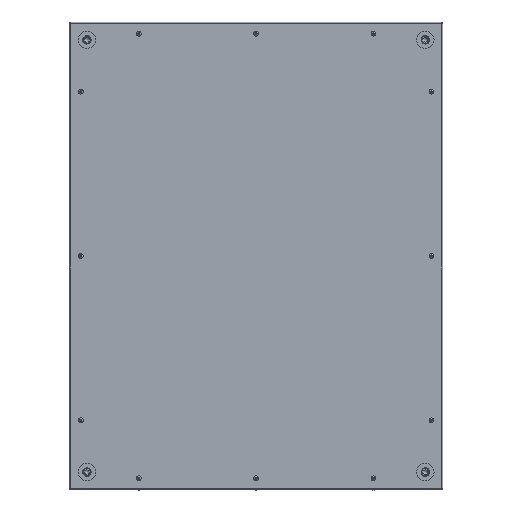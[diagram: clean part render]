
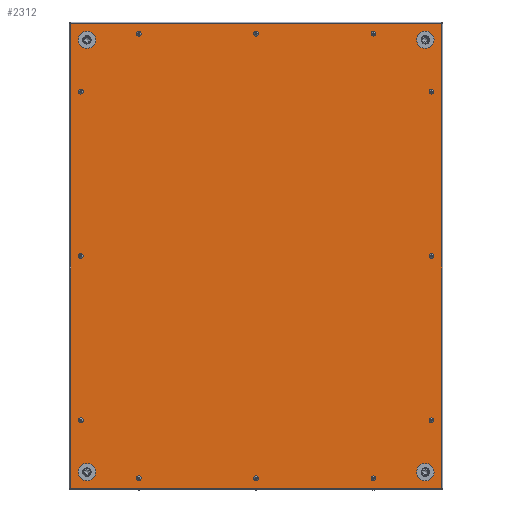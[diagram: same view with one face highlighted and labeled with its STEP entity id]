
A CAD part, top view. The second image highlights one B-rep face of the part: STEP entity #2312.
In plain terms, the highlighted planar face has unit normal (0, 0, 1).
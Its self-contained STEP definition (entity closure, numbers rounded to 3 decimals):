
#2312=ADVANCED_FACE('',(#3389,#3391,#3393,#3395,#3397,#3399,#3401,#3403,#3405,#3407,
#3409,#3411,#3413,#3415,#3417,#3419,#3421),#3423,.T.);
#3389=FACE_BOUND('',#3390,.T.);
#3390=EDGE_LOOP('',(#8882,#8883,#8884,#8885));
#3391=FACE_BOUND('',#3392,.T.);
#3392=EDGE_LOOP('',(#8886));
#3393=FACE_BOUND('',#3394,.T.);
#3394=EDGE_LOOP('',(#8887));
#3395=FACE_BOUND('',#3396,.T.);
#3396=EDGE_LOOP('',(#8888));
#3397=FACE_BOUND('',#3398,.T.);
#3398=EDGE_LOOP('',(#8889));
#3399=FACE_BOUND('',#3400,.T.);
#3400=EDGE_LOOP('',(#8890));
#3401=FACE_BOUND('',#3402,.T.);
#3402=EDGE_LOOP('',(#8891));
#3403=FACE_BOUND('',#3404,.T.);
#3404=EDGE_LOOP('',(#8892));
#3405=FACE_BOUND('',#3406,.T.);
#3406=EDGE_LOOP('',(#8893));
#3407=FACE_BOUND('',#3408,.T.);
#3408=EDGE_LOOP('',(#8894));
#3409=FACE_BOUND('',#3410,.T.);
#3410=EDGE_LOOP('',(#8895));
#3411=FACE_BOUND('',#3412,.T.);
#3412=EDGE_LOOP('',(#8896));
#3413=FACE_BOUND('',#3414,.T.);
#3414=EDGE_LOOP('',(#8897));
#3415=FACE_BOUND('',#3416,.T.);
#3416=EDGE_LOOP('',(#8898));
#3417=FACE_BOUND('',#3418,.T.);
#3418=EDGE_LOOP('',(#8899));
#3419=FACE_BOUND('',#3420,.T.);
#3420=EDGE_LOOP('',(#8900));
#3421=FACE_BOUND('',#3422,.T.);
#3422=EDGE_LOOP('',(#8901));
#3423=PLANE('',#3424);
#3424=AXIS2_PLACEMENT_3D('',#3425,#3426,#3427);
#3425=CARTESIAN_POINT('',(0.,0.,1.5));
#3426=DIRECTION('',(0.,0.,1.));
#3427=DIRECTION('',(0.,1.,0.));
#8882=ORIENTED_EDGE('',*,*,#10599,.T.);
#8883=ORIENTED_EDGE('',*,*,#10600,.T.);
#8884=ORIENTED_EDGE('',*,*,#10601,.T.);
#8885=ORIENTED_EDGE('',*,*,#10602,.T.);
#8886=ORIENTED_EDGE('',*,*,#10578,.T.);
#8887=ORIENTED_EDGE('',*,*,#10577,.T.);
#8888=ORIENTED_EDGE('',*,*,#10576,.T.);
#8889=ORIENTED_EDGE('',*,*,#10575,.T.);
#8890=ORIENTED_EDGE('',*,*,#10574,.T.);
#8891=ORIENTED_EDGE('',*,*,#10573,.T.);
#8892=ORIENTED_EDGE('',*,*,#10572,.T.);
#8893=ORIENTED_EDGE('',*,*,#10571,.T.);
#8894=ORIENTED_EDGE('',*,*,#10566,.T.);
#8895=ORIENTED_EDGE('',*,*,#10567,.T.);
#8896=ORIENTED_EDGE('',*,*,#10568,.T.);
#8897=ORIENTED_EDGE('',*,*,#10569,.T.);
#8898=ORIENTED_EDGE('',*,*,#10565,.T.);
#8899=ORIENTED_EDGE('',*,*,#10564,.T.);
#8900=ORIENTED_EDGE('',*,*,#10563,.T.);
#8901=ORIENTED_EDGE('',*,*,#10562,.T.);
#10562=EDGE_CURVE('',#11608,#11608,#11609,.F.);
#10563=EDGE_CURVE('',#11610,#11610,#11611,.F.);
#10564=EDGE_CURVE('',#11612,#11612,#11613,.F.);
#10565=EDGE_CURVE('',#11614,#11614,#11615,.F.);
#10566=EDGE_CURVE('',#11616,#11616,#11617,.F.);
#10567=EDGE_CURVE('',#11618,#11618,#11619,.F.);
#10568=EDGE_CURVE('',#11620,#11620,#11621,.F.);
#10569=EDGE_CURVE('',#11622,#11622,#11623,.F.);
#10571=EDGE_CURVE('',#11626,#11626,#11627,.F.);
#10572=EDGE_CURVE('',#11628,#11628,#11629,.F.);
#10573=EDGE_CURVE('',#11630,#11630,#11631,.F.);
#10574=EDGE_CURVE('',#11632,#11632,#11633,.F.);
#10575=EDGE_CURVE('',#11634,#11634,#11635,.F.);
#10576=EDGE_CURVE('',#11636,#11636,#11637,.F.);
#10577=EDGE_CURVE('',#11638,#11638,#11639,.F.);
#10578=EDGE_CURVE('',#11640,#11640,#11641,.F.);
#10599=EDGE_CURVE('',#11678,#11679,#11680,.T.);
#10600=EDGE_CURVE('',#11679,#11681,#11682,.T.);
#10601=EDGE_CURVE('',#11681,#11683,#11684,.T.);
#10602=EDGE_CURVE('',#11683,#11678,#11685,.T.);
#11608=VERTEX_POINT('',#13536);
#11609=CIRCLE('',#13537,3.75);
#11610=VERTEX_POINT('',#13541);
#11611=CIRCLE('',#13542,3.75);
#11612=VERTEX_POINT('',#13546);
#11613=CIRCLE('',#13547,3.75);
#11614=VERTEX_POINT('',#13551);
#11615=CIRCLE('',#13552,3.75);
#11616=VERTEX_POINT('',#13556);
#11617=CIRCLE('',#13557,7.);
#11618=VERTEX_POINT('',#13561);
#11619=CIRCLE('',#13562,7.);
#11620=VERTEX_POINT('',#13566);
#11621=CIRCLE('',#13567,7.);
#11622=VERTEX_POINT('',#13571);
#11623=CIRCLE('',#13572,7.);
#11626=VERTEX_POINT('',#13581);
#11627=CIRCLE('',#13582,3.75);
#11628=VERTEX_POINT('',#13586);
#11629=CIRCLE('',#13587,3.75);
#11630=VERTEX_POINT('',#13591);
#11631=CIRCLE('',#13592,3.75);
#11632=VERTEX_POINT('',#13596);
#11633=CIRCLE('',#13597,3.75);
#11634=VERTEX_POINT('',#13601);
#11635=CIRCLE('',#13602,3.75);
#11636=VERTEX_POINT('',#13606);
#11637=CIRCLE('',#13607,3.75);
#11638=VERTEX_POINT('',#13611);
#11639=CIRCLE('',#13612,3.75);
#11640=VERTEX_POINT('',#13616);
#11641=CIRCLE('',#13617,3.75);
#11678=VERTEX_POINT('',#13833);
#11679=VERTEX_POINT('',#13834);
#11680=LINE('',#13835,#13836);
#11681=VERTEX_POINT('',#13838);
#11682=LINE('',#13839,#13840);
#11683=VERTEX_POINT('',#13842);
#11684=LINE('',#13843,#13844);
#11685=LINE('',#13846,#13847);
#13536=CARTESIAN_POINT('',(0.,-469.75,1.5));
#13537=AXIS2_PLACEMENT_3D('',#13538,#13539,#13540);
#13538=CARTESIAN_POINT('',(0.,-473.5,1.5));
#13539=DIRECTION('',(0.,0.,1.));
#13540=DIRECTION('',(0.,1.,0.));
#13541=CARTESIAN_POINT('',(0.,477.25,1.5));
#13542=AXIS2_PLACEMENT_3D('',#13543,#13544,#13545);
#13543=CARTESIAN_POINT('',(0.,473.5,1.5));
#13544=DIRECTION('',(0.,0.,1.));
#13545=DIRECTION('',(0.,1.,0.));
#13546=CARTESIAN_POINT('',(373.5,3.75,1.5));
#13547=AXIS2_PLACEMENT_3D('',#13548,#13549,#13550);
#13548=CARTESIAN_POINT('',(373.5,0.,1.5));
#13549=DIRECTION('',(0.,0.,1.));
#13550=DIRECTION('',(0.,1.,0.));
#13551=CARTESIAN_POINT('',(-373.5,3.75,1.5));
#13552=AXIS2_PLACEMENT_3D('',#13553,#13554,#13555);
#13553=CARTESIAN_POINT('',(-373.5,0.,1.5));
#13554=DIRECTION('',(0.,0.,1.));
#13555=DIRECTION('',(0.,1.,0.));
#13556=CARTESIAN_POINT('',(360.5,-453.5,1.5));
#13557=AXIS2_PLACEMENT_3D('',#13558,#13559,#13560);
#13558=CARTESIAN_POINT('',(360.5,-460.5,1.5));
#13559=DIRECTION('',(0.,0.,1.));
#13560=DIRECTION('',(0.,1.,0.));
#13561=CARTESIAN_POINT('',(-360.5,467.5,1.5));
#13562=AXIS2_PLACEMENT_3D('',#13563,#13564,#13565);
#13563=CARTESIAN_POINT('',(-360.5,460.5,1.5));
#13564=DIRECTION('',(0.,0.,1.));
#13565=DIRECTION('',(0.,1.,0.));
#13566=CARTESIAN_POINT('',(-360.5,-453.5,1.5));
#13567=AXIS2_PLACEMENT_3D('',#13568,#13569,#13570);
#13568=CARTESIAN_POINT('',(-360.5,-460.5,1.5));
#13569=DIRECTION('',(0.,0.,1.));
#13570=DIRECTION('',(0.,1.,0.));
#13571=CARTESIAN_POINT('',(360.5,467.5,1.5));
#13572=AXIS2_PLACEMENT_3D('',#13573,#13574,#13575);
#13573=CARTESIAN_POINT('',(360.5,460.5,1.5));
#13574=DIRECTION('',(0.,0.,1.));
#13575=DIRECTION('',(0.,1.,0.));
#13581=CARTESIAN_POINT('',(-373.5,-346.25,1.5));
#13582=AXIS2_PLACEMENT_3D('',#13583,#13584,#13585);
#13583=CARTESIAN_POINT('',(-373.5,-350.,1.5));
#13584=DIRECTION('',(0.,0.,1.));
#13585=DIRECTION('',(0.,1.,0.));
#13586=CARTESIAN_POINT('',(373.5,353.75,1.5));
#13587=AXIS2_PLACEMENT_3D('',#13588,#13589,#13590);
#13588=CARTESIAN_POINT('',(373.5,350.,1.5));
#13589=DIRECTION('',(0.,0.,1.));
#13590=DIRECTION('',(0.,1.,0.));
#13591=CARTESIAN_POINT('',(373.5,-346.25,1.5));
#13592=AXIS2_PLACEMENT_3D('',#13593,#13594,#13595);
#13593=CARTESIAN_POINT('',(373.5,-350.,1.5));
#13594=DIRECTION('',(0.,0.,1.));
#13595=DIRECTION('',(0.,1.,0.));
#13596=CARTESIAN_POINT('',(-373.5,353.75,1.5));
#13597=AXIS2_PLACEMENT_3D('',#13598,#13599,#13600);
#13598=CARTESIAN_POINT('',(-373.5,350.,1.5));
#13599=DIRECTION('',(0.,0.,1.));
#13600=DIRECTION('',(0.,1.,0.));
#13601=CARTESIAN_POINT('',(-250.,-469.75,1.5));
#13602=AXIS2_PLACEMENT_3D('',#13603,#13604,#13605);
#13603=CARTESIAN_POINT('',(-250.,-473.5,1.5));
#13604=DIRECTION('',(0.,0.,1.));
#13605=DIRECTION('',(0.,1.,0.));
#13606=CARTESIAN_POINT('',(250.,477.25,1.5));
#13607=AXIS2_PLACEMENT_3D('',#13608,#13609,#13610);
#13608=CARTESIAN_POINT('',(250.,473.5,1.5));
#13609=DIRECTION('',(0.,0.,1.));
#13610=DIRECTION('',(0.,1.,0.));
#13611=CARTESIAN_POINT('',(-250.,477.25,1.5));
#13612=AXIS2_PLACEMENT_3D('',#13613,#13614,#13615);
#13613=CARTESIAN_POINT('',(-250.,473.5,1.5));
#13614=DIRECTION('',(0.,0.,1.));
#13615=DIRECTION('',(0.,1.,0.));
#13616=CARTESIAN_POINT('',(250.,-469.75,1.5));
#13617=AXIS2_PLACEMENT_3D('',#13618,#13619,#13620);
#13618=CARTESIAN_POINT('',(250.,-473.5,1.5));
#13619=DIRECTION('',(0.,0.,1.));
#13620=DIRECTION('',(0.,1.,0.));
#13833=CARTESIAN_POINT('',(395.2,495.2,1.5));
#13834=CARTESIAN_POINT('',(-395.2,495.2,1.5));
#13835=CARTESIAN_POINT('',(395.2,495.2,1.5));
#13836=VECTOR('',#13837,1.);
#13837=DIRECTION('',(-1.,0.,0.));
#13838=CARTESIAN_POINT('',(-395.2,-495.2,1.5));
#13839=CARTESIAN_POINT('',(-395.2,495.2,1.5));
#13840=VECTOR('',#13841,1.);
#13841=DIRECTION('',(0.,-1.,0.));
#13842=CARTESIAN_POINT('',(395.2,-495.2,1.5));
#13843=CARTESIAN_POINT('',(-395.2,-495.2,1.5));
#13844=VECTOR('',#13845,1.);
#13845=DIRECTION('',(1.,0.,0.));
#13846=CARTESIAN_POINT('',(395.2,-495.2,1.5));
#13847=VECTOR('',#13848,1.);
#13848=DIRECTION('',(0.,1.,0.));
